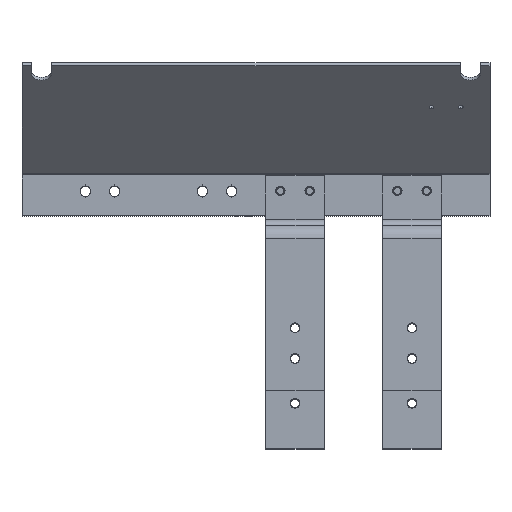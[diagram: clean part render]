
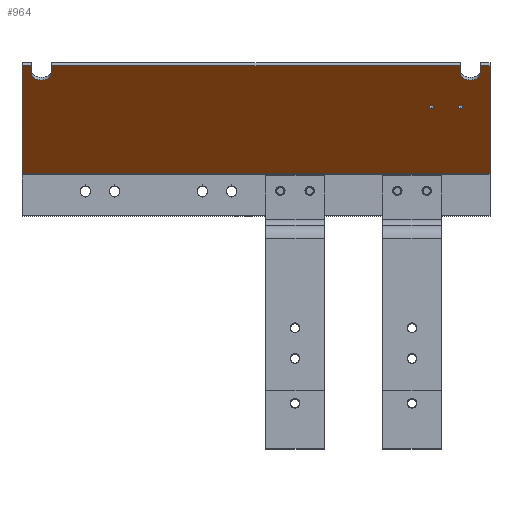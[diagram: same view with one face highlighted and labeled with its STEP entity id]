
A CAD part, top view. The second image highlights one B-rep face of the part: STEP entity #964.
In plain terms, the highlighted planar face has unit normal (0, -0.707, 0.707).
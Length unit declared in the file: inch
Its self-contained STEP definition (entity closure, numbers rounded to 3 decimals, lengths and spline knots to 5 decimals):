
#111=DIRECTION('',(1.,0.,0.));
#112=VECTOR('',#111,12.);
#113=CARTESIAN_POINT('',(-12.,1.08655,-2.75135));
#114=LINE('',#113,#112);
#291=CARTESIAN_POINT('',(-11.5,3.65971,-0.17819));
#292=DIRECTION('',(0.,-0.707,0.707));
#293=DIRECTION('',(-1.,0.,0.));
#294=AXIS2_PLACEMENT_3D('',#291,#292,#293);
#296=DIRECTION('',(0.,0.707,0.707));
#297=VECTOR('',#296,0.252);
#298=CARTESIAN_POINT('',(-11.235,3.65971,-0.17819));
#299=LINE('',#298,#297);
#300=DIRECTION('',(1.,0.,0.));
#301=VECTOR('',#300,10.47);
#302=CARTESIAN_POINT('',(-11.235,3.8379,0.));
#303=LINE('',#302,#301);
#304=CARTESIAN_POINT('',(-0.5,3.65971,-0.17819));
#305=DIRECTION('',(0.,-0.707,0.707));
#306=DIRECTION('',(-1.,0.,0.));
#307=AXIS2_PLACEMENT_3D('',#304,#305,#306);
#309=DIRECTION('',(0.,0.707,0.707));
#310=VECTOR('',#309,0.252);
#311=CARTESIAN_POINT('',(-0.235,3.65971,-0.17819));
#312=LINE('',#311,#310);
#313=DIRECTION('',(1.,0.,0.));
#314=VECTOR('',#313,0.235);
#315=CARTESIAN_POINT('',(-0.235,3.8379,0.));
#316=LINE('',#315,#314);
#317=DIRECTION('',(0.,0.707,0.707));
#318=VECTOR('',#317,3.891);
#319=CARTESIAN_POINT('',(-12.,1.08655,-2.75135));
#320=LINE('',#319,#318);
#321=DIRECTION('',(1.,0.,0.));
#322=VECTOR('',#321,0.235);
#323=CARTESIAN_POINT('',(-12.,3.8379,0.));
#324=LINE('',#323,#322);
#325=CARTESIAN_POINT('',(-0.75,2.77724,-1.06066));
#326=DIRECTION('',(0.,-0.707,0.707));
#327=DIRECTION('',(0.,-0.707,-0.707));
#328=AXIS2_PLACEMENT_3D('',#325,#326,#327);
#330=CARTESIAN_POINT('',(-0.75,2.77724,-1.06066));
#331=DIRECTION('',(0.,-0.707,0.707));
#332=DIRECTION('',(0.,0.707,0.707));
#333=AXIS2_PLACEMENT_3D('',#330,#331,#332);
#335=CARTESIAN_POINT('',(-1.5,2.77724,-1.06066));
#336=DIRECTION('',(0.,-0.707,0.707));
#337=DIRECTION('',(0.,-0.707,-0.707));
#338=AXIS2_PLACEMENT_3D('',#335,#336,#337);
#340=CARTESIAN_POINT('',(-1.5,2.77724,-1.06066));
#341=DIRECTION('',(0.,-0.707,0.707));
#342=DIRECTION('',(0.,0.707,0.707));
#343=AXIS2_PLACEMENT_3D('',#340,#341,#342);
#357=DIRECTION('',(0.,0.707,0.707));
#358=VECTOR('',#357,0.252);
#359=CARTESIAN_POINT('',(-0.765,3.65971,-0.17819));
#360=LINE('',#359,#358);
#389=DIRECTION('',(0.,0.707,0.707));
#390=VECTOR('',#389,3.891);
#391=CARTESIAN_POINT('',(0.,1.08655,-2.75135));
#392=LINE('',#391,#390);
#409=DIRECTION('',(0.,0.707,0.707));
#410=VECTOR('',#409,0.252);
#411=CARTESIAN_POINT('',(-11.765,3.65971,-0.17819));
#412=LINE('',#411,#410);
#577=CARTESIAN_POINT('',(0.,1.08655,-2.75135));
#578=VERTEX_POINT('',#577);
#581=CARTESIAN_POINT('',(-12.,1.08655,-2.75135));
#582=VERTEX_POINT('',#581);
#613=CARTESIAN_POINT('',(-11.765,3.65971,-0.17819));
#614=CARTESIAN_POINT('',(-11.235,3.65971,-0.17819));
#615=VERTEX_POINT('',#613);
#616=VERTEX_POINT('',#614);
#617=CARTESIAN_POINT('',(-11.235,3.8379,0.));
#618=VERTEX_POINT('',#617);
#619=CARTESIAN_POINT('',(-0.765,3.8379,0.));
#620=VERTEX_POINT('',#619);
#621=CARTESIAN_POINT('',(-0.765,3.65971,-0.17819));
#622=VERTEX_POINT('',#621);
#623=CARTESIAN_POINT('',(-0.235,3.65971,-0.17819));
#624=VERTEX_POINT('',#623);
#625=CARTESIAN_POINT('',(-0.235,3.8379,0.));
#626=VERTEX_POINT('',#625);
#627=CARTESIAN_POINT('',(0.,3.8379,0.));
#628=VERTEX_POINT('',#627);
#629=CARTESIAN_POINT('',(-12.,3.8379,0.));
#630=VERTEX_POINT('',#629);
#631=CARTESIAN_POINT('',(-11.765,3.8379,0.));
#632=VERTEX_POINT('',#631);
#633=CARTESIAN_POINT('',(-0.75,2.73548,-1.10242));
#634=CARTESIAN_POINT('',(-0.75,2.819,-1.0189));
#635=VERTEX_POINT('',#633);
#636=VERTEX_POINT('',#634);
#637=CARTESIAN_POINT('',(-1.5,2.73548,-1.10242));
#638=CARTESIAN_POINT('',(-1.5,2.819,-1.0189));
#639=VERTEX_POINT('',#637);
#640=VERTEX_POINT('',#638);
#923=CARTESIAN_POINT('',(0.,3.8379,0.));
#924=DIRECTION('',(0.,-0.707,0.707));
#925=DIRECTION('',(0.,-0.707,-0.707));
#926=AXIS2_PLACEMENT_3D('',#923,#924,#925);
#927=PLANE('',#926);
#928=ORIENTED_EDGE('',*,*,#913,.T.);
#930=ORIENTED_EDGE('',*,*,#929,.T.);
#932=ORIENTED_EDGE('',*,*,#931,.T.);
#934=ORIENTED_EDGE('',*,*,#933,.F.);
#936=ORIENTED_EDGE('',*,*,#935,.T.);
#938=ORIENTED_EDGE('',*,*,#937,.T.);
#940=ORIENTED_EDGE('',*,*,#939,.T.);
#942=ORIENTED_EDGE('',*,*,#941,.F.);
#943=ORIENTED_EDGE('',*,*,#744,.F.);
#945=ORIENTED_EDGE('',*,*,#944,.T.);
#947=ORIENTED_EDGE('',*,*,#946,.T.);
#949=ORIENTED_EDGE('',*,*,#948,.F.);
#950=EDGE_LOOP('',(#928,#930,#932,#934,#936,#938,#940,#942,#943,#945,#947,
#949));
#951=FACE_OUTER_BOUND('',#950,.F.);
#953=ORIENTED_EDGE('',*,*,#952,.T.);
#955=ORIENTED_EDGE('',*,*,#954,.T.);
#956=EDGE_LOOP('',(#953,#955));
#957=FACE_BOUND('',#956,.F.);
#959=ORIENTED_EDGE('',*,*,#958,.T.);
#961=ORIENTED_EDGE('',*,*,#960,.T.);
#962=EDGE_LOOP('',(#959,#961));
#963=FACE_BOUND('',#962,.F.);
#295=CIRCLE('',#294,0.265);
#308=CIRCLE('',#307,0.265);
#329=CIRCLE('',#328,0.05906);
#334=CIRCLE('',#333,0.05906);
#339=CIRCLE('',#338,0.05906);
#344=CIRCLE('',#343,0.05906);
#744=EDGE_CURVE('',#582,#578,#114,.T.);
#913=EDGE_CURVE('',#615,#616,#295,.T.);
#929=EDGE_CURVE('',#616,#618,#299,.T.);
#931=EDGE_CURVE('',#618,#620,#303,.T.);
#933=EDGE_CURVE('',#622,#620,#360,.T.);
#935=EDGE_CURVE('',#622,#624,#308,.T.);
#937=EDGE_CURVE('',#624,#626,#312,.T.);
#939=EDGE_CURVE('',#626,#628,#316,.T.);
#941=EDGE_CURVE('',#578,#628,#392,.T.);
#944=EDGE_CURVE('',#582,#630,#320,.T.);
#946=EDGE_CURVE('',#630,#632,#324,.T.);
#948=EDGE_CURVE('',#615,#632,#412,.T.);
#952=EDGE_CURVE('',#635,#636,#329,.T.);
#954=EDGE_CURVE('',#636,#635,#334,.T.);
#958=EDGE_CURVE('',#639,#640,#339,.T.);
#960=EDGE_CURVE('',#640,#639,#344,.T.);
#964=ADVANCED_FACE('',(#951,#957,#963),#927,.T.);
